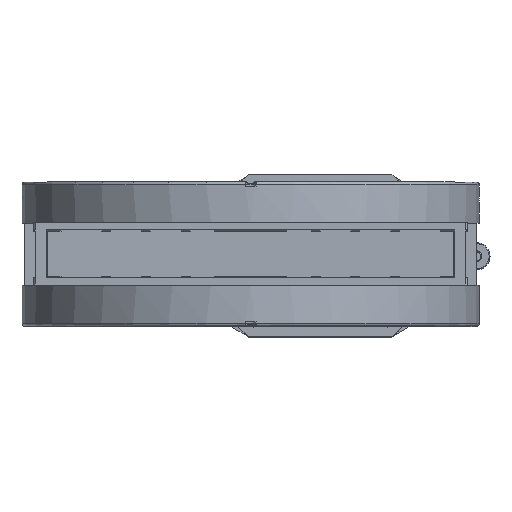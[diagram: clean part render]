
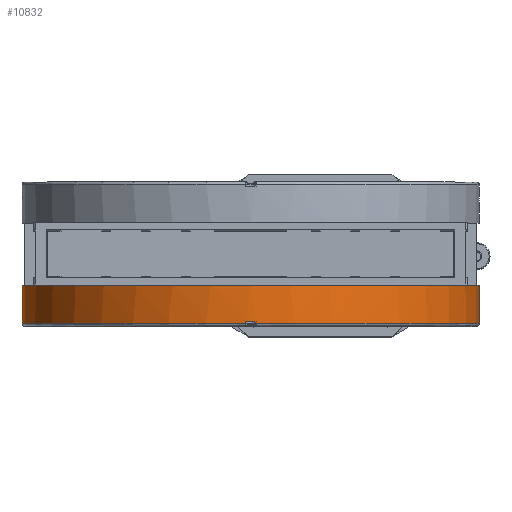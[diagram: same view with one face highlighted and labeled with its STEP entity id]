
A CAD part, top view. The second image highlights one B-rep face of the part: STEP entity #10832.
In plain terms, the highlighted cylindrical face has radius 126.6 mm (diameter 253.2 mm), a full revolution.
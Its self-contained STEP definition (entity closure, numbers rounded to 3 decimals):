
#4765=LINE('',#49713,#6747);
#4766=LINE('',#49718,#6748);
#4767=LINE('',#49722,#6749);
#4768=LINE('',#49726,#6750);
#6747=VECTOR('',#31083,1.);
#6748=VECTOR('',#31086,1.);
#6749=VECTOR('',#31089,1.);
#6750=VECTOR('',#31092,1.);
#10832=ADVANCED_FACE('BCT_REF_61925',(#12422,#12423),#11849,.T.);
#11849=CYLINDRICAL_SURFACE('',#27819,126.6);
#12422=FACE_BOUND('',#13734,.T.);
#12423=FACE_BOUND('',#13735,.T.);
#13734=EDGE_LOOP('',(#16722));
#13735=EDGE_LOOP('',(#16723,#16724,#16725,#16726,#16727,#16728,#16729,#16730));
#16722=ORIENTED_EDGE('',*,*,#24129,.T.);
#16723=ORIENTED_EDGE('',*,*,#24130,.T.);
#16724=ORIENTED_EDGE('',*,*,#24131,.T.);
#16725=ORIENTED_EDGE('',*,*,#24132,.F.);
#16726=ORIENTED_EDGE('',*,*,#24133,.F.);
#16727=ORIENTED_EDGE('',*,*,#24134,.T.);
#16728=ORIENTED_EDGE('',*,*,#24135,.T.);
#16729=ORIENTED_EDGE('',*,*,#24136,.F.);
#16730=ORIENTED_EDGE('',*,*,#24137,.T.);
#21631=VERTEX_POINT('',#49712);
#21632=VERTEX_POINT('',#49714);
#21633=VERTEX_POINT('',#49715);
#21634=VERTEX_POINT('',#49717);
#21635=VERTEX_POINT('',#49719);
#21636=VERTEX_POINT('',#49721);
#21637=VERTEX_POINT('',#49723);
#21638=VERTEX_POINT('',#49725);
#21639=VERTEX_POINT('',#49727);
#24129=EDGE_CURVE('',#21631,#21631,#26622,.T.);
#24130=EDGE_CURVE('',#21632,#21633,#4765,.T.);
#24131=EDGE_CURVE('',#21633,#21634,#26623,.T.);
#24132=EDGE_CURVE('',#21635,#21634,#4766,.T.);
#24133=EDGE_CURVE('',#21636,#21635,#26624,.T.);
#24134=EDGE_CURVE('',#21636,#21637,#4767,.T.);
#24135=EDGE_CURVE('',#21637,#21638,#26625,.T.);
#24136=EDGE_CURVE('',#21639,#21638,#4768,.T.);
#24137=EDGE_CURVE('',#21639,#21632,#26626,.T.);
#26622=CIRCLE('',#27814,126.6);
#26623=CIRCLE('',#27815,126.6);
#26624=CIRCLE('',#27816,126.6);
#26625=CIRCLE('',#27817,126.6);
#26626=CIRCLE('',#27818,126.6);
#27814=AXIS2_PLACEMENT_3D('',#49711,#31081,#31082);
#27815=AXIS2_PLACEMENT_3D('',#49716,#31084,#31085);
#27816=AXIS2_PLACEMENT_3D('',#49720,#31087,#31088);
#27817=AXIS2_PLACEMENT_3D('',#49724,#31090,#31091);
#27818=AXIS2_PLACEMENT_3D('',#49728,#31093,#31094);
#27819=AXIS2_PLACEMENT_3D('',#49729,#31095,#31096);
#31081=DIRECTION('',(0.,-1.,0.));
#31082=DIRECTION('',(0.,0.,-1.));
#31083=DIRECTION('',(0.,-1.,0.));
#31084=DIRECTION('',(0.,1.,0.));
#31085=DIRECTION('',(0.,0.,1.));
#31086=DIRECTION('',(0.,-1.,0.));
#31087=DIRECTION('',(0.,-1.,0.));
#31088=DIRECTION('',(0.,0.,-1.));
#31089=DIRECTION('',(0.,-1.,0.));
#31090=DIRECTION('',(0.,1.,0.));
#31091=DIRECTION('',(0.,0.,1.));
#31092=DIRECTION('',(0.,-1.,0.));
#31093=DIRECTION('',(0.,1.,0.));
#31094=DIRECTION('',(0.,0.,-1.));
#31095=DIRECTION('',(0.,-1.,0.));
#31096=DIRECTION('',(0.,0.,-1.));
#49711=CARTESIAN_POINT('',(0.,-17.25,412.));
#49712=CARTESIAN_POINT('',(0.,-17.25,285.4));
#49713=CARTESIAN_POINT('',(-3.,-37.45,285.436));
#49714=CARTESIAN_POINT('',(-3.,-37.45,285.436));
#49715=CARTESIAN_POINT('',(-3.,-38.45,285.436));
#49716=CARTESIAN_POINT('',(0.,-38.45,412.));
#49717=CARTESIAN_POINT('',(-3.,-38.45,538.564));
#49718=CARTESIAN_POINT('',(-3.,-37.45,538.564));
#49719=CARTESIAN_POINT('',(-3.,-37.45,538.564));
#49720=CARTESIAN_POINT('',(0.,-37.45,412.));
#49721=CARTESIAN_POINT('',(3.,-37.45,538.564));
#49722=CARTESIAN_POINT('',(3.,-37.45,538.564));
#49723=CARTESIAN_POINT('',(3.,-38.45,538.564));
#49724=CARTESIAN_POINT('',(0.,-38.45,412.));
#49725=CARTESIAN_POINT('',(3.,-38.45,285.436));
#49726=CARTESIAN_POINT('',(3.,-37.45,285.436));
#49727=CARTESIAN_POINT('',(3.,-37.45,285.436));
#49728=CARTESIAN_POINT('',(0.,-37.45,412.));
#49729=CARTESIAN_POINT('',(0.,-38.65,412.));
